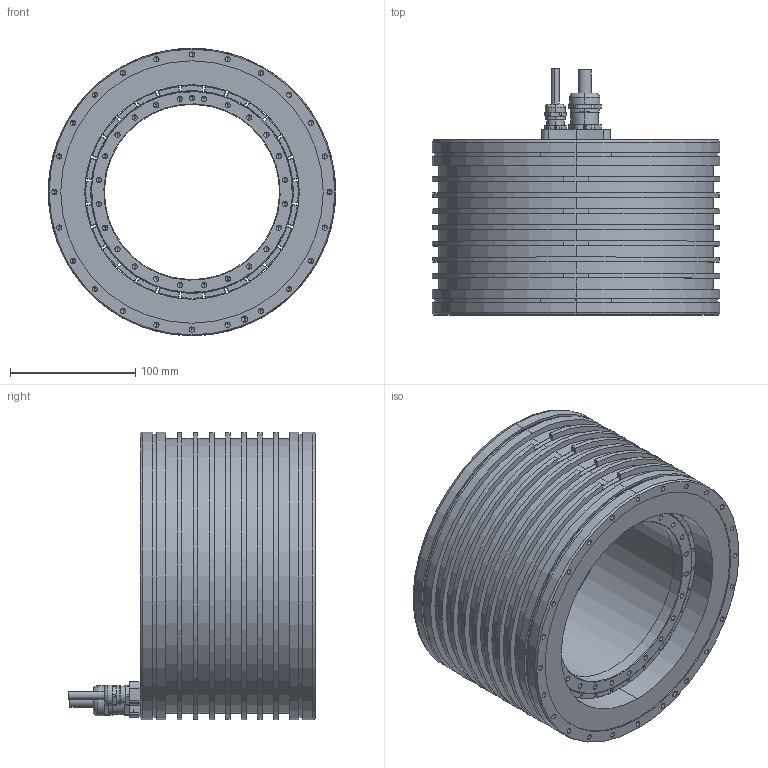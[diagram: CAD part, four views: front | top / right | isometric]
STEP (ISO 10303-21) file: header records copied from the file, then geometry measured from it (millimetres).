
FILE_DESCRIPTION (( 'STEP AP214' ), '1' );
FILE_NAME ('TORQUE KIT QMT LA 230-140-I-AX.STEP', '2025-09-09T07:38:57', ( '' ), ( '' ), 'SwSTEP 2.0', 'SolidWorks 2023', '' );
FILE_SCHEMA (( 'AUTOMOTIVE_DESIGN' ));
Length unit declared in the file: millimetre
Products named in the file (21): Housing-BO; Cable Connection; Housing; Stator; Rotor; Magnet; TORQUE KIT QMT LA 230-140-I-AX; Screw; Cable Clamp; Cooling Ring; Cable Gland; Cable; Rotor Glued; Resin; Rotor Ring
Assembly tree (75 placements, depth 6):
  TORQUE KIT QMT LA 230-140-I-AX
    Stator
      Stator
        Housing
          Housing-BO
            Cooling Ring
        Resin
        Cable Connection
          Cable Connection
          Cable
          Cable
      Cable Clamp
        Cable Clamp
        Cable Gland
        Cable Gland
      Screw  x2
    Rotor
      Rotor Glued
        Rotor Ring
        Magnet  x28
        Magnet  x28
Bounding box: 230 x 197.1 x 230 mm (x, y, z)
Volume: 2979873.7 mm3; surface area: 723203.4 mm2
Topology: 67 solids, 67 shells, 3035 faces, 7147 edges, 3983 vertices
Faces by surface type: cylinder 1208, plane 633, sphere 560, cone 306, torus 248, bspline 80
Entity records: 54066 total; most frequent: CARTESIAN_POINT 10277, DIRECTION 6729, ORIENTED_EDGE 6278, EDGE_CURVE 3139, AXIS2_PLACEMENT_3D 2538, VERTEX_POINT 1998, LINE 1653, VECTOR 1653
